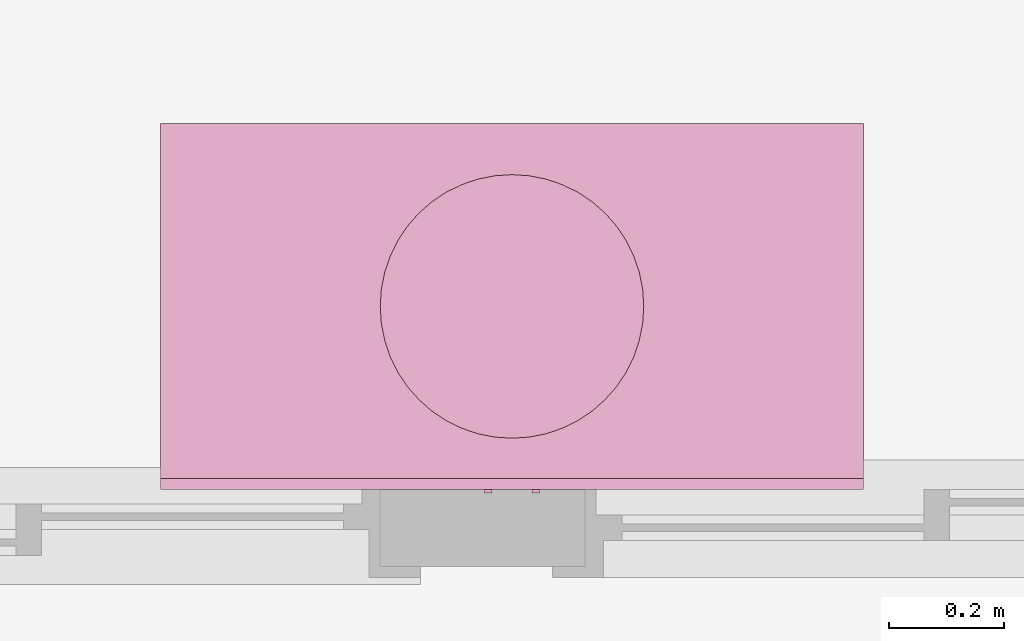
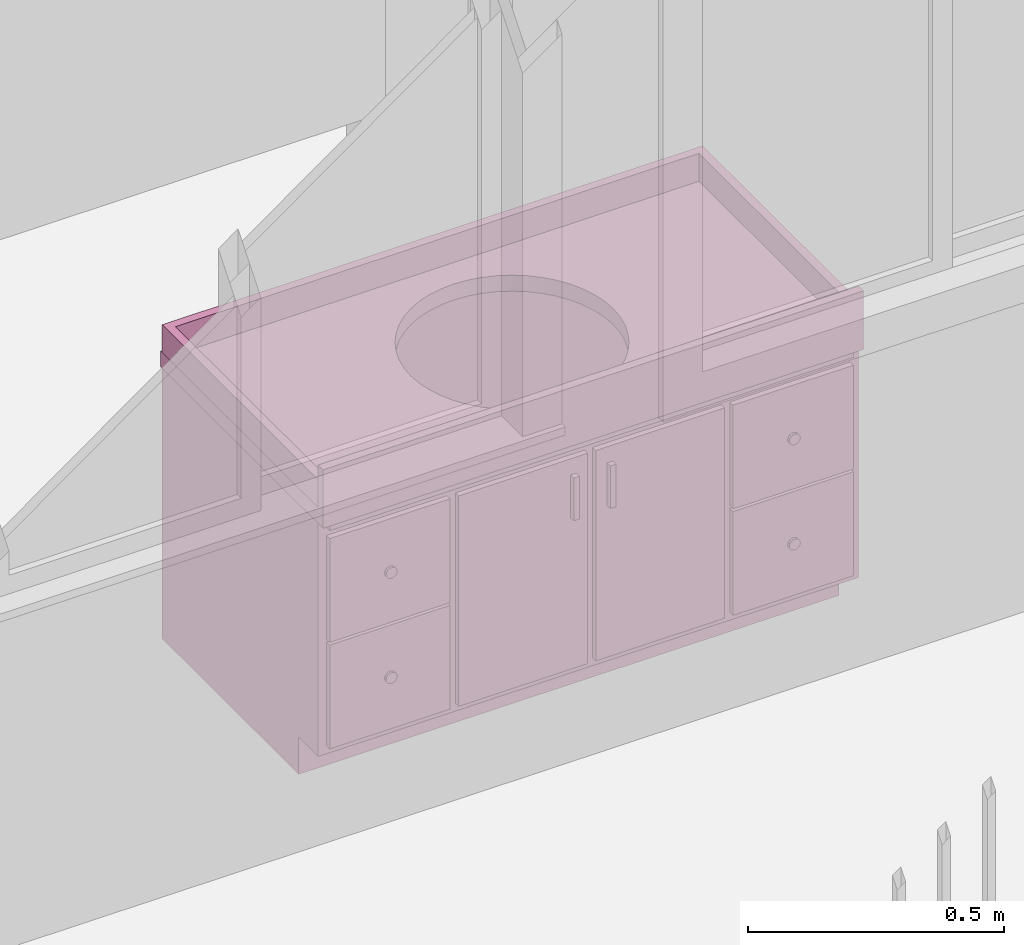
# One storey, part 18 of 21: 2 furnishings, 1 opening.
"""IFC2X3 building model written with IfcOpenShell, lengths in feet."""

from ifc_helpers import new_model, entity, si_unit, converted_unit, derived_unit, direction, frame, frame_2d, origin, place, context, subcontext, project, spatial, polyline, circle, outline, extrude, faceted_brep, source, transform, mapped, material, material_list, type_object, type_shapes, element, save


model = new_model("IFC2X3")

# Units and contexts
model_context = context("Model", 3, precision=0.0001, world=origin(), true_north=direction((6.12303176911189e-17, 1.0)))
body_context = subcontext(model_context, "Body", "Model", "MODEL_VIEW")
ifc_project = project(units=[converted_unit("LENGTHUNIT", "FOOT", entity("IfcRatioMeasure", 0.3048), si_unit("LENGTHUNIT", "METRE"), dimensions=[1, 0, 0, 0, 0, 0, 0]), converted_unit("AREAUNIT", "SQUARE FOOT", entity("IfcRatioMeasure", 0.09290304), si_unit("AREAUNIT", "SQUARE_METRE"), dimensions=[2, 0, 0, 0, 0, 0, 0]), converted_unit("VOLUMEUNIT", "CUBIC FOOT", entity("IfcRatioMeasure", 0.028316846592), si_unit("VOLUMEUNIT", "CUBIC_METRE"), dimensions=[3, 0, 0, 0, 0, 0, 0]), converted_unit("PLANEANGLEUNIT", "DEGREE", entity("IfcRatioMeasure", 0.0174532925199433), si_unit("PLANEANGLEUNIT", "RADIAN"), dimensions=[0, 0, 0, 0, 0, 0, 0]), si_unit("MASSUNIT", "GRAM", prefix="KILO"), derived_unit("MASSDENSITYUNIT", [(si_unit("MASSUNIT", "GRAM", prefix="KILO"), 1), (si_unit("LENGTHUNIT", "METRE"), -3)]), si_unit("TIMEUNIT", "SECOND"), si_unit("FREQUENCYUNIT", "HERTZ"), si_unit("THERMODYNAMICTEMPERATUREUNIT", "DEGREE_CELSIUS"), derived_unit("THERMALTRANSMITTANCEUNIT", [(si_unit("MASSUNIT", "GRAM", prefix="KILO"), 1), (si_unit("THERMODYNAMICTEMPERATUREUNIT", "KELVIN"), -1), (si_unit("TIMEUNIT", "SECOND"), -3)]), derived_unit("VOLUMETRICFLOWRATEUNIT", [(si_unit("LENGTHUNIT", "METRE"), 3), (si_unit("TIMEUNIT", "SECOND"), -1)]), si_unit("ELECTRICCURRENTUNIT", "AMPERE"), si_unit("ELECTRICVOLTAGEUNIT", "VOLT"), si_unit("POWERUNIT", "WATT"), si_unit("FORCEUNIT", "NEWTON"), si_unit("ILLUMINANCEUNIT", "LUX"), si_unit("LUMINOUSFLUXUNIT", "LUMEN"), si_unit("LUMINOUSINTENSITYUNIT", "CANDELA"), derived_unit("USERDEFINED", [(si_unit("MASSUNIT", "GRAM", prefix="KILO"), -1), (si_unit("LENGTHUNIT", "METRE"), -2), (si_unit("TIMEUNIT", "SECOND"), 3), (si_unit("LUMINOUSFLUXUNIT", "LUMEN"), 1)]), derived_unit("LINEARVELOCITYUNIT", [(si_unit("LENGTHUNIT", "METRE"), 1), (si_unit("TIMEUNIT", "SECOND"), -1)]), si_unit("PRESSUREUNIT", "PASCAL"), derived_unit("USERDEFINED", [(si_unit("LENGTHUNIT", "METRE"), -2), (si_unit("MASSUNIT", "GRAM", prefix="KILO"), 1), (si_unit("TIMEUNIT", "SECOND"), -2)])], contexts=[model_context])

# Site, building, storey
site_placement = place(None, origin())
site = spatial("IfcSite", under=ifc_project, at=site_placement, Name="表面", CompositionType="ELEMENT")
building_placement = place(site_placement, origin())
building = spatial("IfcBuilding", under=site, at=building_placement, CompositionType="ELEMENT")
storey_placement = place(building_placement, origin())
storey = spatial("IfcBuildingStorey", under=building, at=storey_placement, Name="Level 1", CompositionType="ELEMENT", Elevation=0.0)

# Furnishing
ifc_material_1 = material(Name="Cabinets - Handles")
ifc_material_2 = material(Name="Cabinets")
ifc_material_list_1 = material_list([ifc_material_1, ifc_material_2])
ifc_material_list_2 = material_list([ifc_material_1, ifc_material_2])
furniture_type_1 = type_object("IfcFurnitureType", Name="48\"", material=ifc_material_list_2)
shared_shape_1 = source(origin(), body_context, "Body", "Brep", [
    faceted_brep([(0.454297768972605, -2.08333333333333, 1.87500000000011), (0.412631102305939, -2.08333333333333, 1.87500000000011), (0.412631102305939, -2.08333333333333, 1.5416666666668), (0.454297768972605, -2.08333333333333, 1.5416666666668), (0.454297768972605, -2.04166666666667, 1.87500000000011), (0.412631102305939, -2.04166666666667, 1.87500000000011), (0.412631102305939, -2.04166666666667, 1.5416666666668), (0.454297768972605, -2.04166666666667, 1.5416666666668)], [[[0, 1, 2, 3]], [[1, 0, 4, 5]], [[2, 1, 5, 6]], [[3, 2, 6, 7]], [[0, 3, 7, 4]], [[4, 7, 6, 5]]]),
    faceted_brep([(0.183464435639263, -2.04166666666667, 1.87500000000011), (0.183464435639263, -2.04166666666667, 1.54166666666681), (0.141797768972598, -2.04166666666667, 1.54166666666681), (0.141797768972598, -2.04166666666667, 1.87500000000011), (0.141797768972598, -2.08333333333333, 1.87500000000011), (0.183464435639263, -2.08333333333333, 1.87500000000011), (0.141797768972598, -2.08333333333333, 1.54166666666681), (0.183464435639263, -2.08333333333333, 1.54166666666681)], [[[0, 1, 2, 3]], [[4, 5, 0, 3]], [[6, 4, 3, 2]], [[7, 6, 2, 1]], [[5, 7, 1, 0]], [[5, 4, 6, 7]]]),
    faceted_brep([(-1.20341143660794, -2.04166666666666, 0.806246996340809), (-1.19413973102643, -2.04166666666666, 0.806246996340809), (-1.18486802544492, -2.04166666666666, 0.806246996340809), (-1.17651450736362, -2.04166666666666, 0.802224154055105), (-1.16816098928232, -2.04166666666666, 0.798201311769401), (-1.16238017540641, -2.04166666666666, 0.7909524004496), (-1.1565993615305, -2.04166666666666, 0.783703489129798), (-1.15453621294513, -2.04166666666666, 0.774664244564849), (-1.15247306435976, -2.04166666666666, 0.7656249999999), (-1.15443837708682, -2.04166666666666, 0.757014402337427), (-1.1565993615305, -2.04166666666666, 0.747546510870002), (-1.16238017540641, -2.04166666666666, 0.7402975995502), (-1.16816098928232, -2.04166666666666, 0.733048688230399), (-1.17651450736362, -2.04166666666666, 0.729025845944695), (-1.18486802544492, -2.04166666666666, 0.725003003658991), (-1.19413973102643, -2.04166666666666, 0.725003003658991), (-1.20341143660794, -2.04166666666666, 0.725003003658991), (-1.21176495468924, -2.04166666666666, 0.729025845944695), (-1.22011847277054, -2.04166666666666, 0.733048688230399), (-1.22589928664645, -2.04166666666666, 0.7402975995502), (-1.23168010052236, -2.04166666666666, 0.747546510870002), (-1.23374324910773, -2.04166666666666, 0.756585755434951), (-1.2358063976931, -2.04166666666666, 0.7656249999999), (-1.23384108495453, -2.04166666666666, 0.774235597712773), (-1.23168010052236, -2.04166666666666, 0.783703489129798), (-1.22589928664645, -2.04166666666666, 0.7909524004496), (-1.22011847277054, -2.04166666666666, 0.798201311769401), (-1.21176495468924, -2.04166666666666, 0.802224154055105), (-1.1565993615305, -2.06249999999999, 0.747546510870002), (-1.15453621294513, -2.06249999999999, 0.756585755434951), (-1.15247306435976, -2.06249999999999, 0.7656249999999), (-1.15443837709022, -2.06249999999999, 0.774235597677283), (-1.1565993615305, -2.06249999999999, 0.783703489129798), (-1.16238017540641, -2.06249999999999, 0.7909524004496), (-1.16816098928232, -2.06249999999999, 0.798201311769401), (-1.17651450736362, -2.06249999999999, 0.802224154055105), (-1.18486802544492, -2.06249999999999, 0.806246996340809), (-1.19413973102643, -2.06249999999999, 0.806246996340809), (-1.20341143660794, -2.06249999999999, 0.806246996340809), (-1.21176495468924, -2.06249999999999, 0.802224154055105), (-1.22011847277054, -2.06249999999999, 0.798201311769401), (-1.22589928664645, -2.06249999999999, 0.7909524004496), (-1.23168010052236, -2.06249999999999, 0.783703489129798), (-1.23374324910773, -2.06249999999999, 0.774664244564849), (-1.2358063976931, -2.06249999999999, 0.7656249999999), (-1.23384108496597, -2.06249999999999, 0.757014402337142), (-1.23168010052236, -2.06249999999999, 0.747546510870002), (-1.22589928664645, -2.06249999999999, 0.7402975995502), (-1.22011847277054, -2.06249999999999, 0.733048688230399), (-1.21176495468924, -2.06249999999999, 0.729025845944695), (-1.20341143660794, -2.06249999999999, 0.725003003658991), (-1.19413973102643, -2.06249999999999, 0.725003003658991), (-1.18486802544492, -2.06249999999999, 0.725003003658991), (-1.17651450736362, -2.06249999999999, 0.729025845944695), (-1.16816098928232, -2.06249999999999, 0.733048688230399), (-1.16238017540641, -2.06249999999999, 0.7402975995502)], [[[0, 1, 2, 3, 4, 5, 6, 7, 8, 9, 10, 11, 12, 13, 14, 15, 16, 17, 18, 19, 20, 21, 22, 23, 24, 25, 26, 27]], [[28, 29, 30, 31, 32, 33, 34, 35, 36, 37, 38, 39, 40, 41, 42, 43, 44, 45, 46, 47, 48, 49, 50, 51, 52, 53, 54, 55]], [[46, 45, 44, 22, 21, 20]], [[47, 46, 20, 19, 18, 48]], [[18, 17, 16, 50, 49, 48]], [[15, 14, 52, 51, 50, 16]], [[53, 52, 14, 13, 12, 54]], [[10, 9, 8, 30, 29, 28]], [[12, 11, 10, 28, 55, 54]], [[32, 31, 30, 8, 7, 6]], [[33, 32, 6, 5, 4, 34]], [[4, 3, 2, 36, 35, 34]], [[1, 0, 38, 37, 36, 2]], [[39, 38, 0, 27, 26, 40]], [[24, 23, 22, 44, 43, 42]], [[26, 25, 24, 42, 41, 40]]]),
    faceted_brep([(-1.1565993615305, -2.06249999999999, 1.60662015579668), (-1.16816098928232, -2.06249999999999, 1.62111797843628), (-1.18486802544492, -2.06249999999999, 1.62916366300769), (-1.20341143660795, -2.06249999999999, 1.62916366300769), (-1.22011847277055, -2.06249999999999, 1.62111797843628), (-1.23168010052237, -2.06249999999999, 1.60662015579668), (-1.2358063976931, -2.06249999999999, 1.58854166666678), (-1.23168010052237, -2.06249999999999, 1.57046317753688), (-1.22011847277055, -2.06249999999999, 1.55596535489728), (-1.20341143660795, -2.06249999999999, 1.54791967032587), (-1.18486802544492, -2.06249999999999, 1.54791967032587), (-1.16816098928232, -2.06249999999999, 1.55596535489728), (-1.1565993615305, -2.06249999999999, 1.57046317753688), (-1.15247306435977, -2.06249999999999, 1.58854166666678), (-1.18486802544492, -2.04166666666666, 1.62916366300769), (-1.16816098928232, -2.04166666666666, 1.62111797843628), (-1.1565993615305, -2.04166666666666, 1.60662015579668), (-1.15247306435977, -2.04166666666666, 1.58854166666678), (-1.1565993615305, -2.04166666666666, 1.57046317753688), (-1.16816098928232, -2.04166666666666, 1.55596535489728), (-1.18486802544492, -2.04166666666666, 1.54791967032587), (-1.20341143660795, -2.04166666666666, 1.54791967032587), (-1.22011847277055, -2.04166666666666, 1.55596535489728), (-1.23168010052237, -2.04166666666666, 1.57046317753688), (-1.2358063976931, -2.04166666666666, 1.58854166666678), (-1.23168010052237, -2.04166666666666, 1.60662015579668), (-1.22011847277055, -2.04166666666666, 1.62111797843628), (-1.20341143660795, -2.04166666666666, 1.62916366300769)], [[[0, 1, 2, 3, 4, 5, 6, 7, 8, 9, 10, 11, 12, 13]], [[14, 15, 16, 17, 18, 19, 20, 21, 22, 23, 24, 25, 26, 27]], [[7, 6, 24, 23]], [[8, 7, 23, 22]], [[9, 8, 22, 21]], [[21, 20, 10, 9]], [[11, 10, 20, 19]], [[19, 18, 12, 11]], [[17, 13, 12, 18]], [[0, 13, 17, 16]], [[16, 15, 1, 0]], [[14, 2, 1, 15]], [[14, 27, 3, 2]], [[4, 3, 27, 26]], [[26, 25, 5, 4]], [[24, 6, 5, 25]]]),
    faceted_brep([(1.79950697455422, -2.04166666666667, 0.806246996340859), (1.81621401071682, -2.04166666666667, 0.798201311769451), (1.82777563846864, -2.04166666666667, 0.783703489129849), (1.83190193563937, -2.04166666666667, 0.765624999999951), (1.82777563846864, -2.04166666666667, 0.747546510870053), (1.81621401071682, -2.04166666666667, 0.73304868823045), (1.79950697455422, -2.04166666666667, 0.725003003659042), (1.78096356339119, -2.04166666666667, 0.725003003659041), (1.76425652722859, -2.04166666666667, 0.733048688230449), (1.75269489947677, -2.04166666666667, 0.747546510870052), (1.74856860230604, -2.04166666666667, 0.765624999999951), (1.75269489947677, -2.04166666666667, 0.783703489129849), (1.76425652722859, -2.04166666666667, 0.798201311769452), (1.78096356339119, -2.04166666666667, 0.80624699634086), (1.79950697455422, -2.0625, 0.725003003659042), (1.81621401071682, -2.0625, 0.73304868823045), (1.82777563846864, -2.0625, 0.747546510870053), (1.83190193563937, -2.0625, 0.76562499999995), (1.82777563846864, -2.0625, 0.783703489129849), (1.81621401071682, -2.0625, 0.798201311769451), (1.79950697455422, -2.0625, 0.806246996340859), (1.78096356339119, -2.0625, 0.80624699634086), (1.76425652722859, -2.0625, 0.798201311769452), (1.75269489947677, -2.0625, 0.783703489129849), (1.74856860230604, -2.0625, 0.76562499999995), (1.75269489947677, -2.0625, 0.747546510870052), (1.76425652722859, -2.0625, 0.733048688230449), (1.78096356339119, -2.0625, 0.725003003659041)], [[[0, 1, 2, 3, 4, 5, 6, 7, 8, 9, 10, 11, 12, 13]], [[14, 15, 16, 17, 18, 19, 20, 21, 22, 23, 24, 25, 26, 27]], [[25, 24, 10, 9]], [[26, 25, 9, 8]], [[27, 26, 8, 7]], [[7, 6, 14, 27]], [[15, 14, 6, 5]], [[5, 4, 16, 15]], [[3, 17, 16, 4]], [[18, 17, 3, 2]], [[2, 1, 19, 18]], [[0, 20, 19, 1]], [[0, 13, 21, 20]], [[22, 21, 13, 12]], [[12, 11, 23, 22]], [[10, 24, 23, 11]]]),
    faceted_brep([(1.79950697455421, -2.0625, 1.54791967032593), (1.81621401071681, -2.0625, 1.55596535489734), (1.82777563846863, -2.0625, 1.57046317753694), (1.83190193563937, -2.0625, 1.58854166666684), (1.82777563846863, -2.0625, 1.60662015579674), (1.81621401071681, -2.0625, 1.62111797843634), (1.79950697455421, -2.0625, 1.62916366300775), (1.78096356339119, -2.0625, 1.62916366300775), (1.76425652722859, -2.0625, 1.62111797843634), (1.75269489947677, -2.0625, 1.60662015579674), (1.74856860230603, -2.0625, 1.58854166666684), (1.75269489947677, -2.0625, 1.57046317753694), (1.76425652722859, -2.0625, 1.55596535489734), (1.78096356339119, -2.0625, 1.54791967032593), (1.81621401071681, -2.04166666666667, 1.62111797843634), (1.82777563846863, -2.04166666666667, 1.60662015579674), (1.83190193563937, -2.04166666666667, 1.58854166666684), (1.82777563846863, -2.04166666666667, 1.57046317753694), (1.81621401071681, -2.04166666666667, 1.55596535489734), (1.79950697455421, -2.04166666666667, 1.54791967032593), (1.78096356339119, -2.04166666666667, 1.54791967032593), (1.76425652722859, -2.04166666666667, 1.55596535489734), (1.75269489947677, -2.04166666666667, 1.57046317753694), (1.74856860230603, -2.04166666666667, 1.58854166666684), (1.75269489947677, -2.04166666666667, 1.60662015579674), (1.76425652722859, -2.04166666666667, 1.62111797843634), (1.78096356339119, -2.04166666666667, 1.62916366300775), (1.79950697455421, -2.04166666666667, 1.62916366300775)], [[[0, 1, 2, 3, 4, 5, 6, 7, 8, 9, 10, 11, 12, 13]], [[14, 15, 16, 17, 18, 19, 20, 21, 22, 23, 24, 25, 26, 27]], [[23, 22, 11, 10]], [[21, 20, 13, 12]], [[22, 21, 12, 11]], [[20, 19, 0, 13]], [[19, 18, 1, 0]], [[17, 16, 3, 2]], [[18, 17, 2, 1]], [[16, 15, 4, 3]], [[14, 27, 6, 5]], [[15, 14, 5, 4]], [[27, 26, 7, 6]], [[26, 25, 8, 7]], [[24, 23, 10, 9]], [[25, 24, 9, 8]]]),
    faceted_brep([(2.23554776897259, -0.0624999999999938, 0.354166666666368), (-1.63945223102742, -0.0624999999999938, 0.354166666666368), (-1.63945223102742, -1.9375, 0.354166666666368), (2.23554776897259, -1.9375, 0.354166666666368), (2.23554776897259, -0.0624999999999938, 0.291666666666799), (2.23554776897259, -1.9375, 0.291666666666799), (-1.63945223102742, -1.9375, 0.291666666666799), (-1.63945223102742, -0.0624999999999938, 0.291666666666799)], [[[0, 1, 2, 3]], [[4, 5, 6, 7]], [[1, 0, 4, 7]], [[2, 1, 7, 6]], [[3, 2, 6, 5]], [[0, 3, 5, 4]]]),
    faceted_brep([(2.23554776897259, -1.9375, 2.45833333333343), (2.23554776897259, -1.9375, 0.291666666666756), (-1.63945223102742, -1.9375, 0.291666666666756), (-1.63945223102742, -1.9375, 2.45833333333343), (2.29804776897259, -2.0, 2.45833333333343), (-1.70195223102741, -2.0, 2.45833333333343), (2.29804776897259, -2.0, 0.291666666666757), (-1.70195223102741, -2.0, 0.291666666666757), (-1.63945223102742, -0.0624999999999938, 0.291666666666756), (-1.63945223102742, -0.0624999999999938, 2.45833333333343), (-1.70195223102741, 0.0, 2.45833333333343), (-1.70195223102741, 0.0, 0.291666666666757), (2.23554776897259, -0.0624999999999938, 0.291666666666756), (2.23554776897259, -0.0624999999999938, 2.45833333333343), (2.29804776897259, 0.0, 2.45833333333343), (2.29804776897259, 0.0, 0.291666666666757)], [[[0, 1, 2, 3]], [[4, 0, 3, 5]], [[6, 4, 5, 7]], [[1, 6, 7, 2]], [[3, 2, 8, 9]], [[5, 3, 9, 10]], [[7, 5, 10, 11]], [[2, 7, 11, 8]], [[9, 8, 12, 13]], [[10, 9, 13, 14]], [[11, 10, 14, 15]], [[8, 11, 15, 12]], [[13, 12, 1, 0]], [[14, 13, 0, 4]], [[15, 14, 4, 6]], [[12, 15, 6, 1]]]),
    faceted_brep([(2.29804776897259, 0.0, 0.291666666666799), (-1.70195223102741, 0.0, 0.291666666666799), (-1.70195223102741, -1.75, 0.291666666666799), (2.29804776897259, -1.75, 0.291666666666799), (2.29804776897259, 0.0, 0.0), (2.29804776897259, -1.75, 0.0), (-1.70195223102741, -1.75, 0.0), (-1.70195223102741, 0.0, 0.0)], [[[0, 1, 2, 3]], [[4, 5, 6, 7]], [[1, 0, 4, 7]], [[2, 1, 7, 6]], [[3, 2, 6, 5]], [[0, 3, 5, 4]]]),
    faceted_brep([(-1.63945223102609, -2.04166666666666, 2.39583333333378), (-1.63945223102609, -2.04166666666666, 2.06250000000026), (2.23554776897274, -2.04166666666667, 2.06250000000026), (2.23554776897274, -2.04166666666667, 2.39583333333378), (-1.63945223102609, -2.0, 2.39583333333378), (-1.63945223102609, -2.0, 2.06250000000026), (2.23554776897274, -2.0, 2.06250000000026), (2.23554776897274, -2.0, 2.39583333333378)], [[[0, 1, 2, 3]], [[1, 0, 4, 5]], [[2, 1, 5, 6]], [[3, 2, 6, 7]], [[0, 3, 7, 4]], [[4, 7, 6, 5]]]),
    faceted_brep([(-1.63945223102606, -2.0, 0.354166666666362), (-1.63945223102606, -2.0, 1.16666666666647), (-0.748827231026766, -2.0, 1.16666666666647), (-0.748827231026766, -2.0, 0.354166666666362), (-0.748827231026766, -2.04166666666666, 0.354166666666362), (-1.63945223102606, -2.04166666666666, 0.354166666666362), (-0.748827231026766, -2.04166666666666, 1.16666666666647), (-1.63945223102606, -2.04166666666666, 1.16666666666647)], [[[0, 1, 2, 3]], [[4, 5, 0, 3]], [[6, 4, 3, 2]], [[7, 6, 2, 1]], [[5, 7, 1, 0]], [[5, 4, 6, 7]]]),
    faceted_brep([(1.34492276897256, -2.04166666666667, 1.1875000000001), (1.34492276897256, -2.04166666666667, 2.0), (1.34492276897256, -2.0, 2.0), (1.34492276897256, -2.0, 1.1875000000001), (2.23554776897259, -2.04166666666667, 1.1875000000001), (2.23554776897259, -2.0, 1.1875000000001), (2.23554776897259, -2.04166666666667, 2.0), (2.23554776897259, -2.0, 2.0)], [[[0, 1, 2, 3]], [[4, 0, 3, 5]], [[6, 4, 5, 7]], [[1, 6, 7, 2]], [[2, 7, 5, 3]], [[1, 0, 4, 6]]]),
    faceted_brep([(2.23554776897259, -2.04166666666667, 0.354166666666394), (1.34492276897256, -2.04166666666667, 0.354166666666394), (1.34492276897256, -2.0, 0.354166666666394), (2.23554776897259, -2.0, 0.354166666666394), (2.23554776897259, -2.04166666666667, 1.16666666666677), (2.23554776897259, -2.0, 1.16666666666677), (1.34492276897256, -2.04166666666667, 1.16666666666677), (1.34492276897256, -2.0, 1.16666666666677)], [[[0, 1, 2, 3]], [[4, 0, 3, 5]], [[6, 4, 5, 7]], [[1, 6, 7, 2]], [[2, 7, 5, 3]], [[1, 0, 4, 6]]]),
    faceted_brep([(-1.63945223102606, -2.04166666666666, 1.1874999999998), (-1.63945223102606, -2.04166666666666, 2.0), (-1.63945223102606, -2.0, 2.0), (-1.63945223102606, -2.0, 1.1874999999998), (-0.748827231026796, -2.04166666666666, 1.1874999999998), (-0.748827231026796, -2.0, 1.1874999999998), (-0.748827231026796, -2.04166666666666, 2.0), (-0.748827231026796, -2.0, 2.0)], [[[0, 1, 2, 3]], [[4, 0, 3, 5]], [[6, 4, 5, 7]], [[1, 6, 7, 2]], [[2, 7, 5, 3]], [[1, 0, 4, 6]]]),
    faceted_brep([(-0.686327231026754, -2.04166666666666, 2.0), (0.266797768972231, -2.04166666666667, 2.0), (0.266797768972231, -2.0, 2.0), (-0.686327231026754, -2.0, 2.0), (-0.686327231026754, -2.04166666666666, 0.354166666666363), (-0.686327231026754, -2.0, 0.354166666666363), (0.266797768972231, -2.04166666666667, 0.354166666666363), (0.266797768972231, -2.0, 0.354166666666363)], [[[0, 1, 2, 3]], [[4, 0, 3, 5]], [[6, 4, 5, 7]], [[1, 6, 7, 2]], [[2, 7, 5, 3]], [[1, 0, 4, 6]]]),
    faceted_brep([(0.329297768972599, -2.04166666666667, 2.0), (1.28242276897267, -2.04166666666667, 2.0), (1.28242276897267, -2.0, 2.0), (0.329297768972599, -2.0, 2.0), (0.329297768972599, -2.04166666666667, 0.354166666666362), (0.329297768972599, -2.0, 0.354166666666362), (1.28242276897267, -2.04166666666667, 0.354166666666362), (1.28242276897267, -2.0, 0.354166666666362)], [[[0, 1, 2, 3]], [[4, 0, 3, 5]], [[6, 4, 5, 7]], [[1, 6, 7, 2]], [[2, 7, 5, 3]], [[1, 0, 4, 6]]]),
])
type_shapes(furniture_type_1, [shared_shape_1])
furnishing_1_placement = place(storey_placement, frame((4.50037247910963, -10.9009396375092, 0.34375)))
element("IfcFurnishingElement", 1, at=furnishing_1_placement, inside=storey, type_object=furniture_type_1, material=ifc_material_list_1, Name="Vanity Cabinet-Double Door & 4 Drawer:48\"", ObjectType="48\"", context=body_context, shape_type="MappedRepresentation", body=[
    mapped(shared_shape_1, transform((0.0, 0.0, 0.0), scale=1.0)),
])

# Furnishing, opening
ifc_material_3 = material(Name="Counter Top")
furniture_type_2 = type_object("IfcFurnitureType", Name="24\" Depth", material=ifc_material_3)
shared_shape_2 = source(origin(), body_context, "Body", "SweptSolid", [
    extrude(outline(polyline([(-0.194444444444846, -0.715277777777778), (0.26388888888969, -0.715277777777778), (0.26388888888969, -0.652777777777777), (-0.0694444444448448, -0.652777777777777), (-0.0694444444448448, 1.36805555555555), (-0.194444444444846, 1.36805555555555), (-0.194444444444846, -0.715277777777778)])), frame((-4.35519125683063, -0.715277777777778, 2.65277777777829), z_axis=(1.0, 0.0, 0.0), x_axis=(0.0, 0.0, 1.0)), (0.0, 0.0, 1.0), 4.0),
])
type_shapes(furniture_type_2, [shared_shape_2])
furnishing_2_placement = place(storey_placement, frame((2.44322899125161, -12.9634396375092, 0.0), z_axis=(0.0, 0.0, 1.0), x_axis=(-1.0, 0.0, 0.0)))
furnishing_2 = element("IfcFurnishingElement", 2, at=furnishing_2_placement, inside=storey, type_object=furniture_type_2, material=ifc_material_3, Name="Vanity Counter Top w Round Sink Hole:24\" Depth", ObjectType="24\" Depth", context=body_context, shape_type="MappedRepresentation", body=[
    mapped(shared_shape_2, transform((0.0, 0.0, 0.0), scale=1.0)),
])
opening_placement = place(storey_placement, frame((2.44322899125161, -12.9634396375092, 0.0)))
element("IfcOpeningElement", 3, at=opening_placement, cuts=furnishing_2, Name="Vanity Counter Top w Round Sink Hole:24\" Depth:1", ObjectType="Opening", context=body_context, shape_type="SweptSolid", body=[
    extrude(circle(Radius=0.749999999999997, at=frame_2d((0.0, 1.11022302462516e-15), x_axis=(1.0, 0.0))), frame((2.35519125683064, 1.04166666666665, 2.45833333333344), z_axis=(0.0, 0.0, 1.0), x_axis=(-1.0, 0.0, 0.0)), (0.0, 0.0, 1.0), 0.125000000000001),
])

save(model, "model.ifc")
